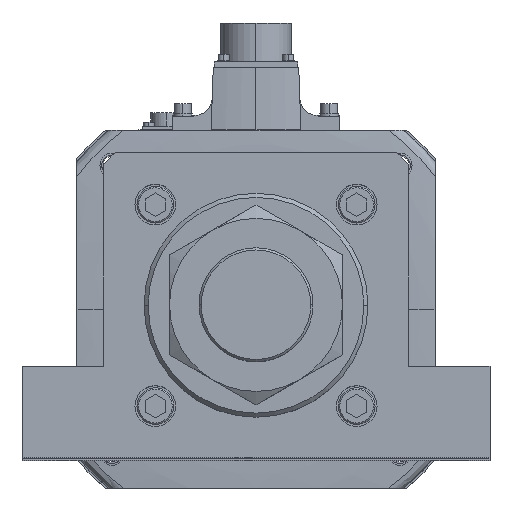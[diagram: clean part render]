
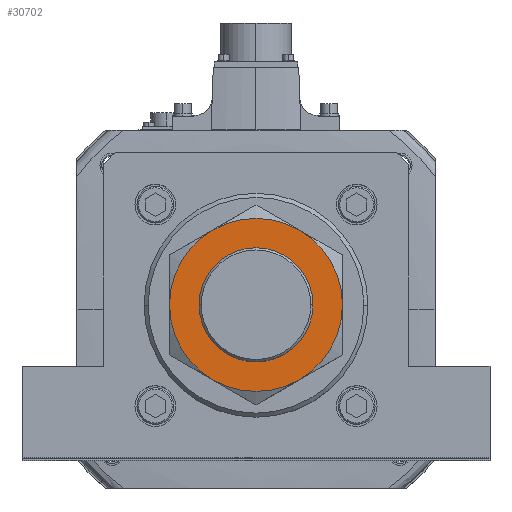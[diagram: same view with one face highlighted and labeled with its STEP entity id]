
A CAD part, top view. The second image highlights one B-rep face of the part: STEP entity #30702.
In plain terms, the highlighted planar face has unit normal (0, 0, 1).
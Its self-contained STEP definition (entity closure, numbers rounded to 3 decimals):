
#1910 = CARTESIAN_POINT ( 'NONE',  ( 21.25, -36.806, 34. ) ) ;
#2648 = EDGE_LOOP ( 'NONE', ( #26061, #48518, #42537, #36994, #9571, #48437 ) ) ;
#2727 = DIRECTION ( 'NONE',  ( 0., 0., -1. ) ) ;
#3645 = FACE_OUTER_BOUND ( 'NONE', #2648, .T. ) ;
#3986 = CARTESIAN_POINT ( 'NONE',  ( 0., 0., 34. ) ) ;
#4145 = AXIS2_PLACEMENT_3D ( 'NONE', #48485, #53474, #9745 ) ;
#5944 = AXIS2_PLACEMENT_3D ( 'NONE', #49109, #18054, #31641 ) ;
#8674 = CARTESIAN_POINT ( 'NONE',  ( -21.25, -36.806, 34. ) ) ;
#8789 = AXIS2_PLACEMENT_3D ( 'NONE', #10321, #40785, #49827 ) ;
#8984 = EDGE_CURVE ( 'NONE', #54761, #27845, #10395, .T. ) ;
#9571 = ORIENTED_EDGE ( 'NONE', *, *, #31429, .F. ) ;
#9745 = DIRECTION ( 'NONE',  ( 1., 0., 0. ) ) ;
#10273 = DIRECTION ( 'NONE',  ( 0., 0., -1. ) ) ;
#10294 = CARTESIAN_POINT ( 'NONE',  ( 21.25, 36.806, 34. ) ) ;
#10321 = CARTESIAN_POINT ( 'NONE',  ( 0., 0., 34. ) ) ;
#10395 = CIRCLE ( 'NONE', #30192, 42.5 ) ;
#10807 = CARTESIAN_POINT ( 'NONE',  ( 42.5, 0., 34. ) ) ;
#11037 = FACE_BOUND ( 'NONE', #43747, .T. ) ;
#11812 = CIRCLE ( 'NONE', #39780, 28. ) ;
#11864 = CIRCLE ( 'NONE', #14779, 42.5 ) ;
#13787 = EDGE_CURVE ( 'NONE', #37146, #34619, #40863, .T. ) ;
#14779 = AXIS2_PLACEMENT_3D ( 'NONE', #3986, #17049, #51557 ) ;
#15260 = DIRECTION ( 'NONE',  ( 0., 0., 1. ) ) ;
#17049 = DIRECTION ( 'NONE',  ( 0., 0., -1. ) ) ;
#18054 = DIRECTION ( 'NONE',  ( 0., 0., -1. ) ) ;
#19470 = CIRCLE ( 'NONE', #40429, 42.5 ) ;
#21914 = CIRCLE ( 'NONE', #8789, 42.5 ) ;
#24673 = DIRECTION ( 'NONE',  ( 1., 0., 0. ) ) ;
#25343 = VERTEX_POINT ( 'NONE', #10294 ) ;
#25572 = DIRECTION ( 'NONE',  ( 1., 0., 0. ) ) ;
#26061 = ORIENTED_EDGE ( 'NONE', *, *, #44079, .F. ) ;
#26713 = EDGE_CURVE ( 'NONE', #30821, #50893, #56643, .T. ) ;
#27845 = VERTEX_POINT ( 'NONE', #8674 ) ;
#30192 = AXIS2_PLACEMENT_3D ( 'NONE', #33572, #2727, #25572 ) ;
#30702 = ADVANCED_FACE ( 'NONE', ( #3645, #11037 ), #37703, .T. ) ;
#30821 = VERTEX_POINT ( 'NONE', #54963 ) ;
#31429 = EDGE_CURVE ( 'NONE', #27845, #37146, #21914, .T. ) ;
#31641 = DIRECTION ( 'NONE',  ( 1., 0., 0. ) ) ;
#32122 = CARTESIAN_POINT ( 'NONE',  ( 0., 0., 34. ) ) ;
#33251 = CARTESIAN_POINT ( 'NONE',  ( 0., 0., 34. ) ) ;
#33572 = CARTESIAN_POINT ( 'NONE',  ( 0., 0., 34. ) ) ;
#34619 = VERTEX_POINT ( 'NONE', #40349 ) ;
#35896 = CIRCLE ( 'NONE', #5944, 42.5 ) ;
#36994 = ORIENTED_EDGE ( 'NONE', *, *, #13787, .F. ) ;
#37146 = VERTEX_POINT ( 'NONE', #39419 ) ;
#37703 = PLANE ( 'NONE',  #52887 ) ;
#38077 = DIRECTION ( 'NONE',  ( 1., 0., 0. ) ) ;
#39419 = CARTESIAN_POINT ( 'NONE',  ( -42.5, 0., 34. ) ) ;
#39780 = AXIS2_PLACEMENT_3D ( 'NONE', #42438, #55154, #38077 ) ;
#40349 = CARTESIAN_POINT ( 'NONE',  ( -21.25, 36.806, 34. ) ) ;
#40429 = AXIS2_PLACEMENT_3D ( 'NONE', #52655, #52469, #48234 ) ;
#40785 = DIRECTION ( 'NONE',  ( 0., 0., -1. ) ) ;
#40863 = CIRCLE ( 'NONE', #52790, 42.5 ) ;
#42438 = CARTESIAN_POINT ( 'NONE',  ( 0., 0., 34. ) ) ;
#42537 = ORIENTED_EDGE ( 'NONE', *, *, #45340, .F. ) ;
#42791 = VERTEX_POINT ( 'NONE', #10807 ) ;
#43607 = CARTESIAN_POINT ( 'NONE',  ( 28., 0., 34. ) ) ;
#43747 = EDGE_LOOP ( 'NONE', ( #56177, #54331 ) ) ;
#44079 = EDGE_CURVE ( 'NONE', #42791, #54761, #19470, .T. ) ;
#44769 = DIRECTION ( 'NONE',  ( -1., 0., 0. ) ) ;
#45167 = EDGE_CURVE ( 'NONE', #25343, #42791, #35896, .T. ) ;
#45340 = EDGE_CURVE ( 'NONE', #34619, #25343, #11864, .T. ) ;
#45838 = EDGE_CURVE ( 'NONE', #50893, #30821, #11812, .T. ) ;
#48234 = DIRECTION ( 'NONE',  ( 1., 0., 0. ) ) ;
#48437 = ORIENTED_EDGE ( 'NONE', *, *, #8984, .F. ) ;
#48485 = CARTESIAN_POINT ( 'NONE',  ( 0., 0., 34. ) ) ;
#48518 = ORIENTED_EDGE ( 'NONE', *, *, #45167, .F. ) ;
#49109 = CARTESIAN_POINT ( 'NONE',  ( 0., 0., 34. ) ) ;
#49827 = DIRECTION ( 'NONE',  ( 1., 0., 0. ) ) ;
#50893 = VERTEX_POINT ( 'NONE', #43607 ) ;
#51557 = DIRECTION ( 'NONE',  ( 1., 0., 0. ) ) ;
#52469 = DIRECTION ( 'NONE',  ( 0., 0., -1. ) ) ;
#52655 = CARTESIAN_POINT ( 'NONE',  ( 0., 0., 34. ) ) ;
#52790 = AXIS2_PLACEMENT_3D ( 'NONE', #32122, #10273, #44769 ) ;
#52887 = AXIS2_PLACEMENT_3D ( 'NONE', #33251, #15260, #24673 ) ;
#53474 = DIRECTION ( 'NONE',  ( 0., 0., 1. ) ) ;
#54331 = ORIENTED_EDGE ( 'NONE', *, *, #45838, .F. ) ;
#54761 = VERTEX_POINT ( 'NONE', #1910 ) ;
#54963 = CARTESIAN_POINT ( 'NONE',  ( -28., 0., 34. ) ) ;
#55154 = DIRECTION ( 'NONE',  ( 0., 0., 1. ) ) ;
#56177 = ORIENTED_EDGE ( 'NONE', *, *, #26713, .F. ) ;
#56643 = CIRCLE ( 'NONE', #4145, 28. ) ;
